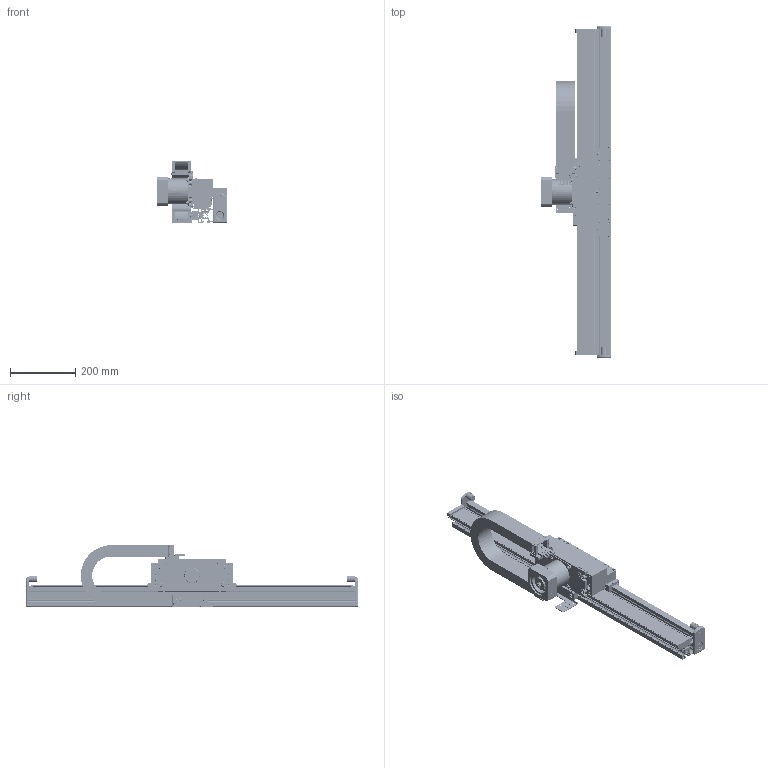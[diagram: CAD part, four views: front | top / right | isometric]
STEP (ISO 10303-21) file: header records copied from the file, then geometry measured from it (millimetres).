
FILE_DESCRIPTION( ( '' ), ' ' );
FILE_NAME( '/vol/tmp/translate-11735445422252812153/5c7eaf77cb3f0b1ca4a5fb4b.step', '2019-03-05T17:18:48', ( '' ), ( '' ), ' ', ' ', ' ' );
FILE_SCHEMA( ( 'AUTOMOTIVE_DESIGN { 1 0 10303 214 1 1 1 1 }' ) );
Length unit declared in the file: metre
Products named in the file (92): FASTENERS <1>; 100001-073 M6 X 12 SS SHCS; 102811-002 M6 T-NUT; RAIL FASTENERS <12>; 20mm BEARING RAIL CAP; 100001-8065 M5-.80 X 25 ALLOY SHCS; 102684-001 BOSCH 10mm T-BLOCK M5; RAIL FASTENERS <14>; RAIL FASTENERS <10>; FASTENERS <2>; RAIL FASTENERS <2>; RAIL FASTENERS <4>; FASTENERS <4>; RAIL FASTENERS <9>; RAIL FASTENERS <16>; RAIL FASTENERS <1>; RAIL FASTENERS <17>; RAIL FASTENERS <11>; RAIL FASTENERS <7>; RAIL FASTENERS <6>; RAIL FASTENERS <3>; RAIL FASTENERS <5>; RAIL FASTENERS <8>; FASTENERS <3>; RAIL FASTENERS <13>; RAIL FASTENERS <15>; FASTENERS <5>; IGUS E6-29-040 END BRACKET (1) <1>; iguse6-29-040-1; iguse6-29-040-3(Default); iguse6-29-040-2; iguse6-29-040-4(Default); IGUS E6-29-040 END BRACKET (1) <2>; PLQE080-005-TEKNIC34 & PINION <1>; PLQE080-005-TEKNIC34; 100013-079 M5 X 10 SS SET SCREW; 103795-008 SBL-H PINION 20mm BORE 6mm KEY LOCK; TRAY <1>; 103072-001 T10 X 50mm BELTING; 102610-006 VHB TAPE 50mm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
Assembly tree (211 placements, depth 5):
  Assem1
    E6-29-40 LINKS
    103072-001 T10 X 50mm BELTING
    PLQE080-005-TEKNIC34 MOUNT <1>
      100011-8047 M6-1.0 X 20 ALLOY FHCS  x4
      100003-006 M8 SS F/W  x4
      100001-086 M8-1.25 X 20 SS SHCS  x4
      100007-001 M6 SS HEX NUT  x4
      105326-006 SBL-H NEUGART GEARBOX MOTOR MOUNT PLATE
      100013-072 M6 X 12 SS SET SCREW  x2
      PLQE080-005-TEKNIC34 & PINION <1>
        PLQE080-005-TEKNIC34
        100013-079 M5 X 10 SS SET SCREW  x2
        103795-008 SBL-H PINION 20mm BORE 6mm KEY LOCK
    1000 CHASSIS <1>
      102576-1000 45-SERIES PROFILE 45X90H
      RAIL <1>
        102732-990 20mm STANDARD GUIDE RAIL
        106888-001 20mm RAIL COVER
        RAIL FASTENERS <10>
          20mm BEARING RAIL CAP
          102684-001 BOSCH 10mm T-BLOCK M5
          100001-8065 M5-.80 X 25 ALLOY SHCS
        RAIL FASTENERS <11>
          102684-001 BOSCH 10mm T-BLOCK M5
          100001-8065 M5-.80 X 25 ALLOY SHCS
          20mm BEARING RAIL CAP
        RAIL FASTENERS <8>
          100001-8065 M5-.80 X 25 ALLOY SHCS
          20mm BEARING RAIL CAP
          102684-001 BOSCH 10mm T-BLOCK M5
        RAIL FASTENERS <17>
          20mm BEARING RAIL CAP
          102684-001 BOSCH 10mm T-BLOCK M5
          100001-8065 M5-.80 X 25 ALLOY SHCS
        RAIL FASTENERS <12>
          20mm BEARING RAIL CAP
          100001-8065 M5-.80 X 25 ALLOY SHCS
          102684-001 BOSCH 10mm T-BLOCK M5
        RAIL FASTENERS <2>
          102684-001 BOSCH 10mm T-BLOCK M5
          20mm BEARING RAIL CAP
          100001-8065 M5-.80 X 25 ALLOY SHCS
        RAIL FASTENERS <4>
          100001-8065 M5-.80 X 25 ALLOY SHCS
          20mm BEARING RAIL CAP
          102684-001 BOSCH 10mm T-BLOCK M5
        RAIL FASTENERS <1>
          20mm BEARING RAIL CAP
          102684-001 BOSCH 10mm T-BLOCK M5
          100001-8065 M5-.80 X 25 ALLOY SHCS
        RAIL FASTENERS <16>
          100001-8065 M5-.80 X 25 ALLOY SHCS
          20mm BEARING RAIL CAP
          102684-001 BOSCH 10mm T-BLOCK M5
        RAIL FASTENERS <15>
          100001-8065 M5-.80 X 25 ALLOY SHCS
          20mm BEARING RAIL CAP
          102684-001 BOSCH 10mm T-BLOCK M5
        RAIL FASTENERS <14>
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Bounding box: 216.12 x 1019.05 x 189.79 mm (x, y, z)
Volume: 5577454.7 mm3; surface area: 2364952 mm2
Topology: 174 solids, 175 shells, 4264 faces, 10763 edges, 7078 vertices
Faces by surface type: plane 2715, cylinder 1163, cone 290, torus 83, sphere 9, bspline 4
Full cylindrical faces by diameter (mm): 2.5 x24, 2.54 x2, 2.6 x4, 2.66 x4, 3 x8, 3.3 x2, 3.6 x2, 3.988 x6, 4 x4, 4.2 x8, 4.216 x16, 4.5 x14, 5 x51, 5.004 x27, 5.1 x1, 5.105 x2, 5.5 x19, 5.8 x8, 5.867 x2, 5.994 x15, 6 x26, 6.2 x4, 6.4 x1, 6.5 x6, 6.6 x5, 6.8 x6, 6.858 x2, 7 x6, 7.112 x5, 7.5 x8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
Entity records: 85709 total; most frequent: CARTESIAN_POINT 13885, DIRECTION 11403, ORIENTED_EDGE 10312, EDGE_CURVE 5156, AXIS2_PLACEMENT_3D 3989, VERTEX_POINT 3649, LINE 3425, VECTOR 3425
